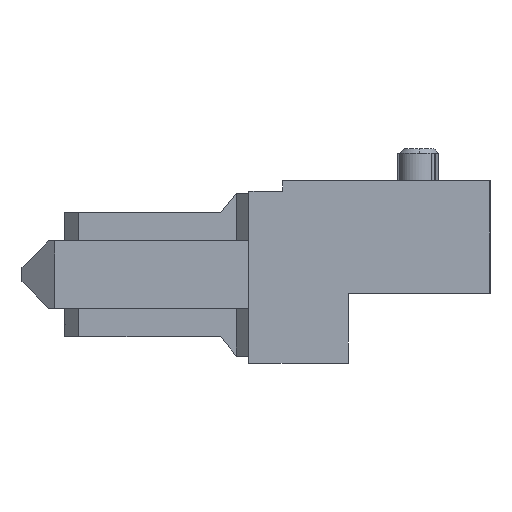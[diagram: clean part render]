
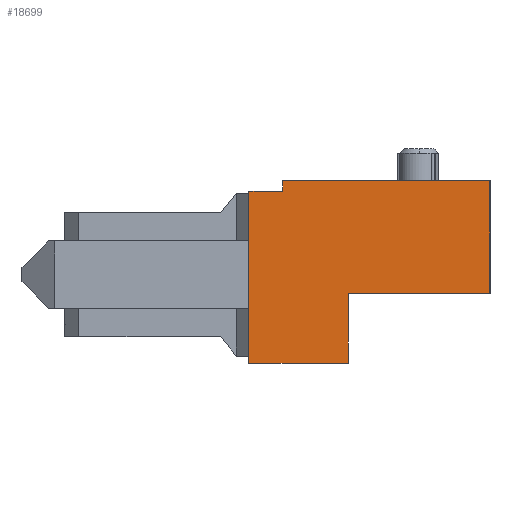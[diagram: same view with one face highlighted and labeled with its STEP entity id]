
A CAD part, left-side view. The second image highlights one B-rep face of the part: STEP entity #18699.
In plain terms, the highlighted planar face has unit normal (-1, 0, 0).
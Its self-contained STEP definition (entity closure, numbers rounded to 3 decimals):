
#5469=DIRECTION('',(0.,-1.,0.));
#5470=VECTOR('',#5469,0.95);
#5471=CARTESIAN_POINT('',(-17.325,0.,2.35));
#5472=LINE('',#5471,#5470);
#5473=DIRECTION('',(0.,0.,-1.));
#5474=VECTOR('',#5473,3.18);
#5475=CARTESIAN_POINT('',(-17.325,-6.8,2.65));
#5476=LINE('',#5475,#5474);
#5477=DIRECTION('',(0.,1.,0.));
#5478=VECTOR('',#5477,4.);
#5479=CARTESIAN_POINT('',(-17.325,-6.8,-0.53));
#5480=LINE('',#5479,#5478);
#5481=DIRECTION('',(0.,0.,1.));
#5482=VECTOR('',#5481,1.97);
#5483=CARTESIAN_POINT('',(-17.325,-2.8,-2.5));
#5484=LINE('',#5483,#5482);
#5485=DIRECTION('',(0.,1.,0.));
#5486=VECTOR('',#5485,2.8);
#5487=CARTESIAN_POINT('',(-17.325,-2.8,-2.5));
#5488=LINE('',#5487,#5486);
#5489=DIRECTION('',(0.,0.,1.));
#5490=VECTOR('',#5489,4.85);
#5491=CARTESIAN_POINT('',(-17.325,0.,-2.5));
#5492=LINE('',#5491,#5490);
#5493=DIRECTION('',(0.,0.,-1.));
#5494=VECTOR('',#5493,0.3);
#5495=CARTESIAN_POINT('',(-17.325,-0.95,2.65));
#5496=LINE('',#5495,#5494);
#6005=DIRECTION('',(0.,-1.,0.));
#6006=VECTOR('',#6005,5.85);
#6007=CARTESIAN_POINT('',(-17.325,-0.95,2.65));
#6008=LINE('',#6007,#6006);
#8867=CARTESIAN_POINT('',(-17.325,0.,-2.5));
#8869=VERTEX_POINT('',#8867);
#10775=CARTESIAN_POINT('',(-17.325,-2.8,-2.5));
#10776=CARTESIAN_POINT('',(-17.325,-2.8,-0.53));
#10777=VERTEX_POINT('',#10775);
#10778=VERTEX_POINT('',#10776);
#10779=CARTESIAN_POINT('',(-17.325,-6.8,-0.53));
#10780=VERTEX_POINT('',#10779);
#10803=CARTESIAN_POINT('',(-17.325,-6.8,2.65));
#10805=VERTEX_POINT('',#10803);
#10809=CARTESIAN_POINT('',(-17.325,-0.95,2.65));
#10810=VERTEX_POINT('',#10809);
#11323=CARTESIAN_POINT('',(-17.325,0.,2.35));
#11324=CARTESIAN_POINT('',(-17.325,-0.95,2.35));
#11325=VERTEX_POINT('',#11323);
#11326=VERTEX_POINT('',#11324);
#18678=CARTESIAN_POINT('',(-17.325,0.,0.));
#18679=DIRECTION('',(1.,0.,0.));
#18680=DIRECTION('',(0.,0.,-1.));
#18681=AXIS2_PLACEMENT_3D('',#18678,#18679,#18680);
#18682=PLANE('',#18681);
#18683=ORIENTED_EDGE('',*,*,#18641,.T.);
#18685=ORIENTED_EDGE('',*,*,#18684,.F.);
#18687=ORIENTED_EDGE('',*,*,#18686,.T.);
#18689=ORIENTED_EDGE('',*,*,#18688,.T.);
#18691=ORIENTED_EDGE('',*,*,#18690,.T.);
#18693=ORIENTED_EDGE('',*,*,#18692,.F.);
#18695=ORIENTED_EDGE('',*,*,#18694,.T.);
#18696=ORIENTED_EDGE('',*,*,#18358,.T.);
#18697=EDGE_LOOP('',(#18683,#18685,#18687,#18689,#18691,#18693,#18695,#18696));
#18698=FACE_OUTER_BOUND('',#18697,.F.);
#18699=ADVANCED_FACE('',(#18698),#18682,.F.);
#18358=EDGE_CURVE('',#8869,#11325,#5492,.T.);
#18641=EDGE_CURVE('',#11325,#11326,#5472,.T.);
#18684=EDGE_CURVE('',#10810,#11326,#5496,.T.);
#18686=EDGE_CURVE('',#10810,#10805,#6008,.T.);
#18688=EDGE_CURVE('',#10805,#10780,#5476,.T.);
#18690=EDGE_CURVE('',#10780,#10778,#5480,.T.);
#18692=EDGE_CURVE('',#10777,#10778,#5484,.T.);
#18694=EDGE_CURVE('',#10777,#8869,#5488,.T.);
